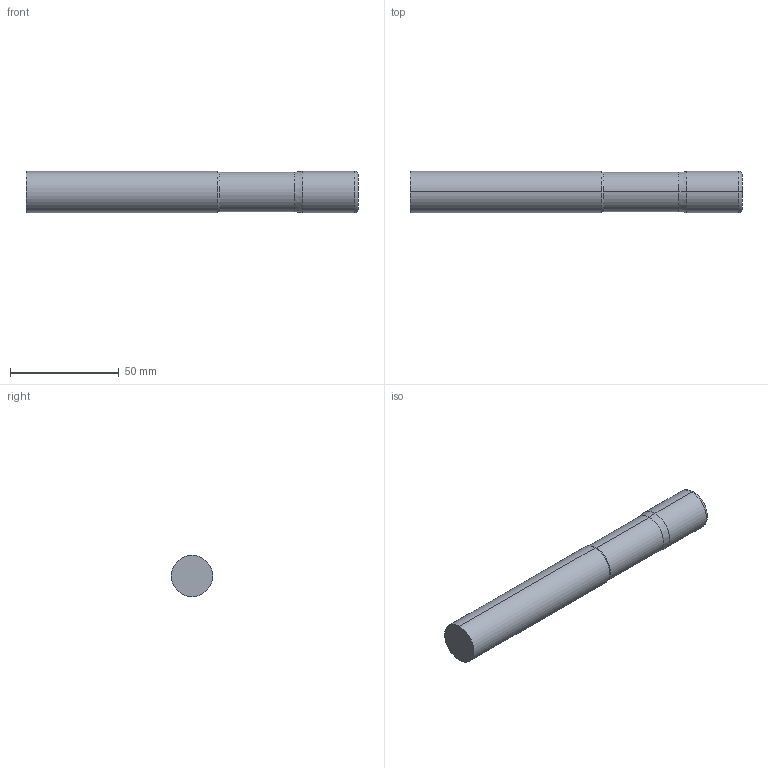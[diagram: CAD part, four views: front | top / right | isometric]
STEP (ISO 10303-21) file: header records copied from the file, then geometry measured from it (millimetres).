
FILE_DESCRIPTION (( 'STEP AP214' ), '1' );
FILE_NAME ('SSIRNM70750-060.STEP', '2025-05-30T14:58:17', ( '' ), ( '' ), 'SwSTEP 2.0', 'SolidWorks 2023', '' );
FILE_SCHEMA (( 'AUTOMOTIVE_DESIGN' ));
Length unit declared in the file: inch
Products named in the file (3): SSI7 Cut Only_SSIRNM70750-060; SSI7 Shank Only_SSIRNM70750-060; SSIRNM70750-060
Assembly tree (2 placements, depth 2):
  SSIRNM70750-060
    SSI7 Cut Only_SSIRNM70750-060
    SSI7 Shank Only_SSIRNM70750-060
Bounding box: 152.4 x 19.05 x 19.05 mm (x, y, z)
Volume: 42455.4 mm3; surface area: 10126.8 mm2
Topology: 2 solids, 2 shells, 16 faces, 28 edges, 16 vertices
Faces by surface type: cylinder 6, plane 4, cone 4, torus 2
Entity records: 484 total; most frequent: DIRECTION 88, CARTESIAN_POINT 65, ORIENTED_EDGE 56, AXIS2_PLACEMENT_3D 39, EDGE_CURVE 28, CIRCLE 18, EDGE_LOOP 16, FACE_OUTER_BOUND 16
